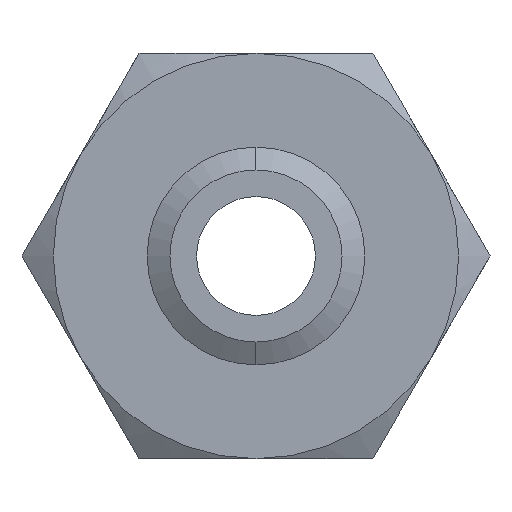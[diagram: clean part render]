
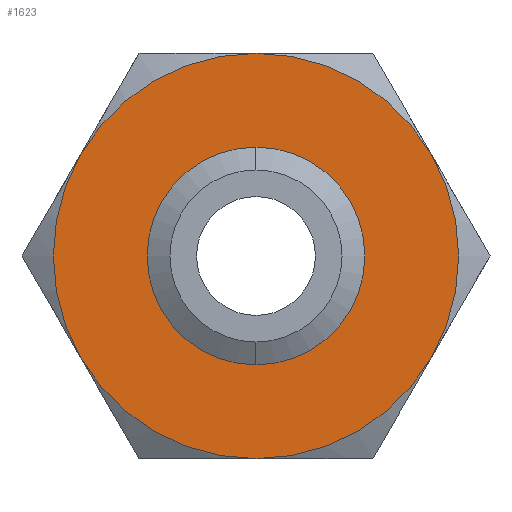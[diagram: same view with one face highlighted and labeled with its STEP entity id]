
A CAD part, front view. The second image highlights one B-rep face of the part: STEP entity #1623.
In plain terms, the highlighted planar face has unit normal (0, -1, 0).
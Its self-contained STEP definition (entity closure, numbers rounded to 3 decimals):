
#662 = DIRECTION ( 'NONE',  ( 0., 0., 1. ) ) ;
#663 = DIRECTION ( 'NONE',  ( 0., 1., 0. ) ) ;
#664 = CARTESIAN_POINT ( 'NONE',  ( 0., 0., 0. ) ) ;
#665 = AXIS2_PLACEMENT_3D ( 'NONE', #664, #663, #662 ) ;
#666 = CIRCLE ( 'NONE', #665, 32.5 ) ;
#711 = CARTESIAN_POINT ( 'NONE',  ( 28.146, 0., 16.25 ) ) ;
#712 = CARTESIAN_POINT ( 'NONE',  ( -28.146, 0., -16.25 ) ) ;
#714 = CARTESIAN_POINT ( 'NONE',  ( 28.146, 0., -16.25 ) ) ;
#719 = CARTESIAN_POINT ( 'NONE',  ( 0., 0., 0. ) ) ;
#720 = CIRCLE ( 'NONE', #781, 32.5 ) ;
#721 = CARTESIAN_POINT ( 'NONE',  ( 0., 0., 32.5 ) ) ;
#750 = DIRECTION ( 'NONE',  ( 0., 0., 1. ) ) ;
#751 = DIRECTION ( 'NONE',  ( 0., 1., 0. ) ) ;
#752 = CARTESIAN_POINT ( 'NONE',  ( 0., 0., 0. ) ) ;
#753 = AXIS2_PLACEMENT_3D ( 'NONE', #752, #751, #750 ) ;
#754 = CIRCLE ( 'NONE', #753, 32.5 ) ;
#755 = DIRECTION ( 'NONE',  ( 0., 0., 1. ) ) ;
#756 = DIRECTION ( 'NONE',  ( 0., 1., 0. ) ) ;
#757 = CARTESIAN_POINT ( 'NONE',  ( 0., 0., 0. ) ) ;
#758 = AXIS2_PLACEMENT_3D ( 'NONE', #757, #756, #755 ) ;
#759 = CIRCLE ( 'NONE', #758, 32.5 ) ;
#760 = CARTESIAN_POINT ( 'NONE',  ( -28.146, 0., 16.25 ) ) ;
#761 = DIRECTION ( 'NONE',  ( 0., 0., 1. ) ) ;
#762 = DIRECTION ( 'NONE',  ( 0., 1., 0. ) ) ;
#763 = CARTESIAN_POINT ( 'NONE',  ( 18.764, 0., -32.5 ) ) ;
#764 = AXIS2_PLACEMENT_3D ( 'NONE', #763, #762, #761 ) ;
#765 = PLANE ( 'NONE',  #764 ) ;
#766 = FACE_BOUND ( 'NONE', #1624, .T. ) ;
#767 = FACE_OUTER_BOUND ( 'NONE', #1622, .T. ) ;
#779 = DIRECTION ( 'NONE',  ( 0., 0., 1. ) ) ;
#780 = DIRECTION ( 'NONE',  ( 0., 1., 0. ) ) ;
#781 = AXIS2_PLACEMENT_3D ( 'NONE', #719, #780, #779 ) ;
#792 = CARTESIAN_POINT ( 'NONE',  ( 0., 0., -32.5 ) ) ;
#793 = DIRECTION ( 'NONE',  ( 0., 0., 1. ) ) ;
#794 = DIRECTION ( 'NONE',  ( 0., 1., 0. ) ) ;
#795 = CARTESIAN_POINT ( 'NONE',  ( 0., 0., 0. ) ) ;
#796 = AXIS2_PLACEMENT_3D ( 'NONE', #795, #794, #793 ) ;
#797 = CIRCLE ( 'NONE', #796, 32.5 ) ;
#841 = DIRECTION ( 'NONE',  ( 0., 0., -1. ) ) ;
#842 = DIRECTION ( 'NONE',  ( 0., -1., 0. ) ) ;
#843 = CARTESIAN_POINT ( 'NONE',  ( 0., 0., 0. ) ) ;
#844 = AXIS2_PLACEMENT_3D ( 'NONE', #843, #842, #841 ) ;
#845 = CIRCLE ( 'NONE', #844, 13.802 ) ;
#921 = DIRECTION ( 'NONE',  ( 0., 0., 1. ) ) ;
#922 = DIRECTION ( 'NONE',  ( 0., 1., 0. ) ) ;
#923 = CARTESIAN_POINT ( 'NONE',  ( 0., 0., 0. ) ) ;
#924 = AXIS2_PLACEMENT_3D ( 'NONE', #923, #922, #921 ) ;
#925 = CIRCLE ( 'NONE', #924, 32.5 ) ;
#1074 = CARTESIAN_POINT ( 'NONE',  ( 0., 0., -13.802 ) ) ;
#1075 = CARTESIAN_POINT ( 'NONE',  ( 0., 0., 13.802 ) ) ;
#1092 = DIRECTION ( 'NONE',  ( 0., 0., -1. ) ) ;
#1093 = DIRECTION ( 'NONE',  ( 0., -1., 0. ) ) ;
#1104 = CARTESIAN_POINT ( 'NONE',  ( 0., 0., 0. ) ) ;
#1105 = AXIS2_PLACEMENT_3D ( 'NONE', #1104, #1093, #1092 ) ;
#1107 = CIRCLE ( 'NONE', #1105, 13.802 ) ;
#1570 = EDGE_CURVE ( 'NONE', #1637, #1582, #666, .T. ) ;
#1575 = ORIENTED_EDGE ( 'NONE', *, *, #1693, .F. ) ;
#1577 = ORIENTED_EDGE ( 'NONE', *, *, #1647, .F. ) ;
#1581 = VERTEX_POINT ( 'NONE', #714 ) ;
#1582 = VERTEX_POINT ( 'NONE', #712 ) ;
#1583 = ORIENTED_EDGE ( 'NONE', *, *, #1570, .F. ) ;
#1584 = VERTEX_POINT ( 'NONE', #711 ) ;
#1611 = VERTEX_POINT ( 'NONE', #721 ) ;
#1612 = EDGE_CURVE ( 'NONE', #1611, #1584, #720, .T. ) ;
#1617 = ORIENTED_EDGE ( 'NONE', *, *, #1612, .F. ) ;
#1622 = EDGE_LOOP ( 'NONE', ( #1617, #1628, #1626, #1583, #1638, #1575 ) ) ;
#1623 = ADVANCED_FACE ( 'NONE', ( #767, #766 ), #765, .F. ) ;
#1624 = EDGE_LOOP ( 'NONE', ( #1652, #1577 ) ) ;
#1625 = VERTEX_POINT ( 'NONE', #760 ) ;
#1626 = ORIENTED_EDGE ( 'NONE', *, *, #1627, .F. ) ;
#1627 = EDGE_CURVE ( 'NONE', #1582, #1625, #759, .T. ) ;
#1628 = ORIENTED_EDGE ( 'NONE', *, *, #1629, .F. ) ;
#1629 = EDGE_CURVE ( 'NONE', #1625, #1611, #754, .T. ) ;
#1635 = EDGE_CURVE ( 'NONE', #1581, #1637, #797, .T. ) ;
#1637 = VERTEX_POINT ( 'NONE', #792 ) ;
#1638 = ORIENTED_EDGE ( 'NONE', *, *, #1635, .F. ) ;
#1647 = EDGE_CURVE ( 'NONE', #1745, #1747, #845, .T. ) ;
#1652 = ORIENTED_EDGE ( 'NONE', *, *, #1757, .F. ) ;
#1693 = EDGE_CURVE ( 'NONE', #1584, #1581, #925, .T. ) ;
#1745 = VERTEX_POINT ( 'NONE', #1075 ) ;
#1747 = VERTEX_POINT ( 'NONE', #1074 ) ;
#1757 = EDGE_CURVE ( 'NONE', #1747, #1745, #1107, .T. ) ;
